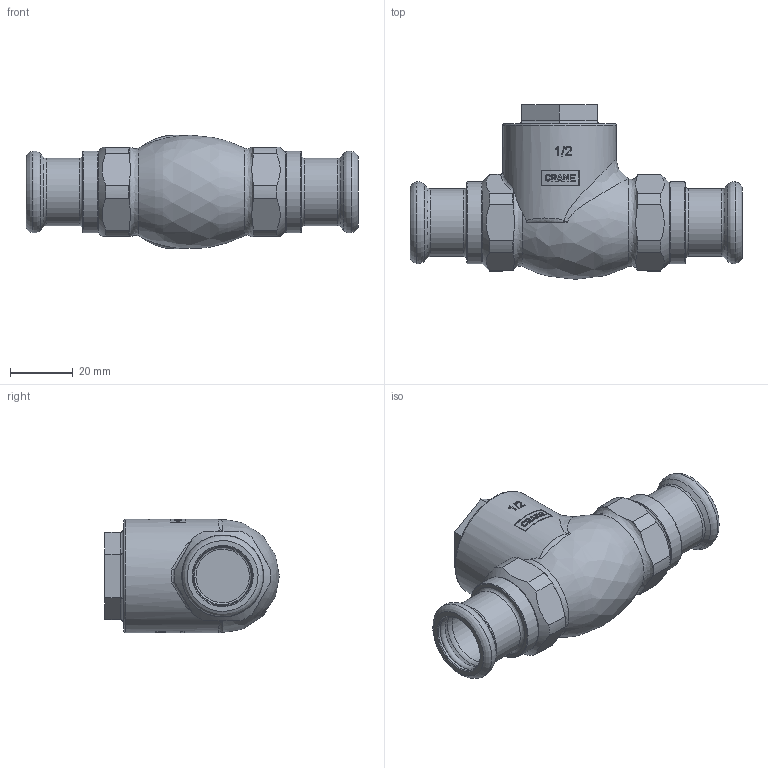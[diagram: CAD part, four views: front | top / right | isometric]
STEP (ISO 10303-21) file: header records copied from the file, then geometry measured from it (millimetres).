
FILE_DESCRIPTION((''),'2;1');
FILE_NAME('P:\Fastrack\53972_CRANE 3D\Push Fit\145840-18mm.stp','2011-08-23T12:18:50',('btaylor'),(''),'Autodesk Inventor 2008','Autodesk Inventor 2008','');
FILE_SCHEMA(('AUTOMOTIVE_DESIGN { 1 0 10303 214 1 1 1 1 }'));
Length unit declared in the file: millimetre
Products named in the file (1): 145840-18mm
Bounding box: 105.5 x 55.5 x 36.2 mm (x, y, z)
Volume: 61604.6 mm3; surface area: 22543.6 mm2
Topology: 1 solids, 4 shells, 450 faces, 1218 edges, 801 vertices
Faces by surface type: bspline 231, plane 126, cylinder 54, cone 30, torus 9
Full cylindrical faces by diameter (mm): 18.2 x2, 18.8 x2, 21.45 x2, 26 x2, 36 x1
Entity records: 57254 total; most frequent: CARTESIAN_POINT 47872, ORIENTED_EDGE 2296, DIRECTION 1205, EDGE_CURVE 1148, VERTEX_POINT 785, B_SPLINE_CURVE_WITH_KNOTS 533, EDGE_LOOP 527, FACE_OUTER_BOUND 449
